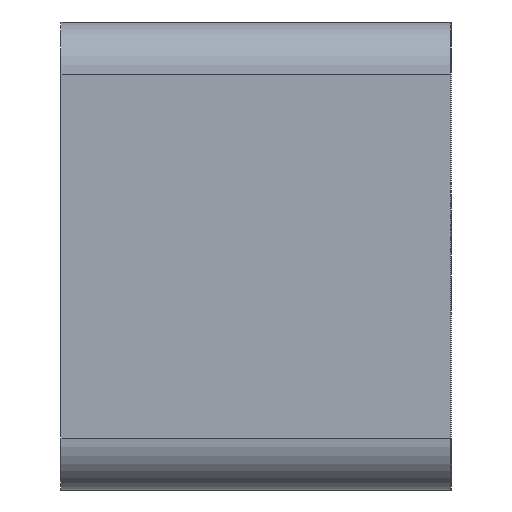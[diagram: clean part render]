
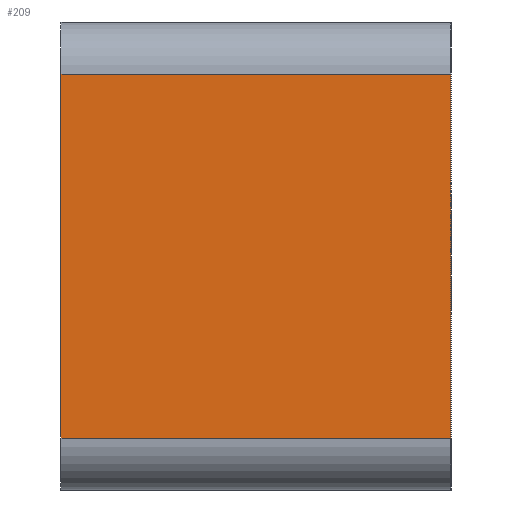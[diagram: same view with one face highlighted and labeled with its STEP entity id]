
A CAD part, left-side view. The second image highlights one B-rep face of the part: STEP entity #209.
In plain terms, the highlighted planar face has unit normal (-1, 0, 0).
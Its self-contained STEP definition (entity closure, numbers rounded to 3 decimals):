
#7 = ORIENTED_EDGE ( 'NONE', *, *, #836, .T. ) ;
#14 = CARTESIAN_POINT ( 'NONE',  ( -84.95, 15., -7. ) ) ;
#103 = CARTESIAN_POINT ( 'NONE',  ( -84.95, 15., 7. ) ) ;
#125 = FACE_OUTER_BOUND ( 'NONE', #290, .T. ) ;
#140 = VERTEX_POINT ( 'NONE', #551 ) ;
#209 = ADVANCED_FACE ( 'NONE', ( #125 ), #827, .F. ) ;
#223 = VECTOR ( 'NONE', #851, 1000. ) ;
#250 = AXIS2_PLACEMENT_3D ( 'NONE', #478, #900, #252 ) ;
#252 = DIRECTION ( 'NONE',  ( 0., 0., -1. ) ) ;
#290 = EDGE_LOOP ( 'NONE', ( #901, #969, #7, #321 ) ) ;
#295 = CARTESIAN_POINT ( 'NONE',  ( -84.95, 0., -9. ) ) ;
#321 = ORIENTED_EDGE ( 'NONE', *, *, #475, .T. ) ;
#344 = DIRECTION ( 'NONE',  ( 0., 1., 0. ) ) ;
#412 = VERTEX_POINT ( 'NONE', #14 ) ;
#432 = CARTESIAN_POINT ( 'NONE',  ( -84.95, 15., 7. ) ) ;
#446 = LINE ( 'NONE', #1002, #470 ) ;
#460 = LINE ( 'NONE', #295, #223 ) ;
#470 = VECTOR ( 'NONE', #879, 1000. ) ;
#475 = EDGE_CURVE ( 'NONE', #140, #1004, #568, .T. ) ;
#478 = CARTESIAN_POINT ( 'NONE',  ( -84.95, 15., -9. ) ) ;
#547 = VECTOR ( 'NONE', #838, 1000. ) ;
#551 = CARTESIAN_POINT ( 'NONE',  ( -84.95, 0., 7. ) ) ;
#568 = LINE ( 'NONE', #432, #972 ) ;
#594 = VERTEX_POINT ( 'NONE', #928 ) ;
#755 = CARTESIAN_POINT ( 'NONE',  ( -84.95, 15., -9. ) ) ;
#789 = LINE ( 'NONE', #755, #547 ) ;
#827 = PLANE ( 'NONE',  #250 ) ;
#836 = EDGE_CURVE ( 'NONE', #594, #140, #460, .T. ) ;
#838 = DIRECTION ( 'NONE',  ( 0., 0., 1. ) ) ;
#851 = DIRECTION ( 'NONE',  ( 0., 0., 1. ) ) ;
#879 = DIRECTION ( 'NONE',  ( 0., -1., 0. ) ) ;
#900 = DIRECTION ( 'NONE',  ( 1., 0., 0. ) ) ;
#901 = ORIENTED_EDGE ( 'NONE', *, *, #915, .F. ) ;
#915 = EDGE_CURVE ( 'NONE', #412, #1004, #789, .T. ) ;
#928 = CARTESIAN_POINT ( 'NONE',  ( -84.95, 0., -7. ) ) ;
#969 = ORIENTED_EDGE ( 'NONE', *, *, #1016, .T. ) ;
#972 = VECTOR ( 'NONE', #344, 1000. ) ;
#1002 = CARTESIAN_POINT ( 'NONE',  ( -84.95, 15., -7. ) ) ;
#1004 = VERTEX_POINT ( 'NONE', #103 ) ;
#1016 = EDGE_CURVE ( 'NONE', #412, #594, #446, .T. ) ;
